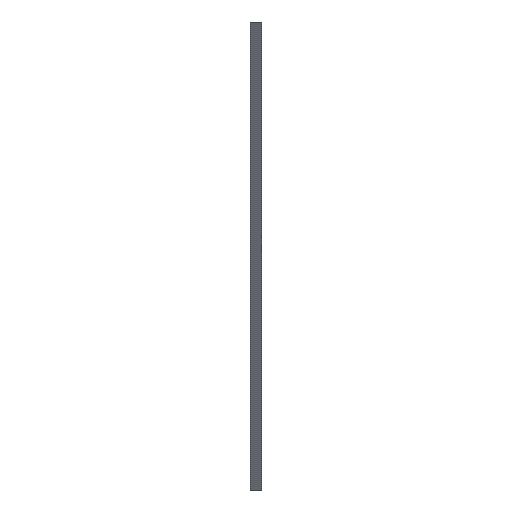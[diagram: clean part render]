
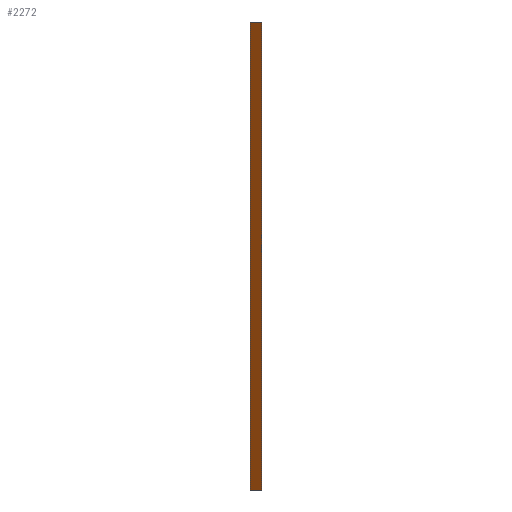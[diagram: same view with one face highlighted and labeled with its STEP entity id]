
A CAD part, left-side view. The second image highlights one B-rep face of the part: STEP entity #2272.
In plain terms, the highlighted planar face has unit normal (-0.707, 0.707, 0).
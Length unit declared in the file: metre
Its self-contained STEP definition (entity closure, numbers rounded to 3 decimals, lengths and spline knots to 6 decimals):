
#744=ORIENTED_EDGE('',*,*,#819,.F.);
#745=ORIENTED_EDGE('',*,*,#998,.F.);
#746=ORIENTED_EDGE('',*,*,#993,.F.);
#747=ORIENTED_EDGE('',*,*,#1000,.F.);
#819=EDGE_CURVE('',#1054,#1056,#1289,.T.);
#993=EDGE_CURVE('',#1218,#1220,#1303,.T.);
#998=EDGE_CURVE('',#1220,#1054,#1308,.T.);
#1000=EDGE_CURVE('',#1056,#1218,#1310,.T.);
#1054=VERTEX_POINT('',#3336);
#1056=VERTEX_POINT('',#3339);
#1218=VERTEX_POINT('',#3760);
#1220=VERTEX_POINT('',#3763);
#1289=LINE('',#3338,#1379);
#1303=LINE('',#3762,#1393);
#1308=LINE('',#3771,#1398);
#1310=LINE('',#3774,#1400);
#1379=VECTOR('',#2670,1.);
#1393=VECTOR('',#3176,1.);
#1398=VECTOR('',#3185,1.);
#1400=VECTOR('',#3189,1.);
#1764=EDGE_LOOP('',(#744,#745,#746,#747));
#2128=FACE_BOUND('',#1764,.T.);
#2160=PLANE('',#2557);
#2272=ADVANCED_FACE('',(#2128),#2160,.T.);
#2557=AXIS2_PLACEMENT_3D('',#3776,#3191,#3192);
#2670=DIRECTION('',(0.707,0.707,0.));
#3176=DIRECTION('',(-0.707,-0.707,0.));
#3185=DIRECTION('',(0.,0.,-1.));
#3189=DIRECTION('',(0.,0.,1.));
#3191=DIRECTION('',(-0.707,0.707,0.));
#3192=DIRECTION('',(0.,0.,-1.));
#3336=CARTESIAN_POINT('',(-0.0465,-0.031,-0.074));
#3338=CARTESIAN_POINT('',(-0.0445,-0.029,-0.074));
#3339=CARTESIAN_POINT('',(-0.0445,-0.029,-0.074));
#3760=CARTESIAN_POINT('',(-0.0445,-0.029,0.005));
#3762=CARTESIAN_POINT('',(-0.02325,-0.00775,0.005));
#3763=CARTESIAN_POINT('',(-0.0465,-0.031,0.005));
#3771=CARTESIAN_POINT('',(-0.0465,-0.031,-0.0345));
#3774=CARTESIAN_POINT('',(-0.0445,-0.029,0.005));
#3776=CARTESIAN_POINT('',(-0.0445,-0.029,-0.0345));
